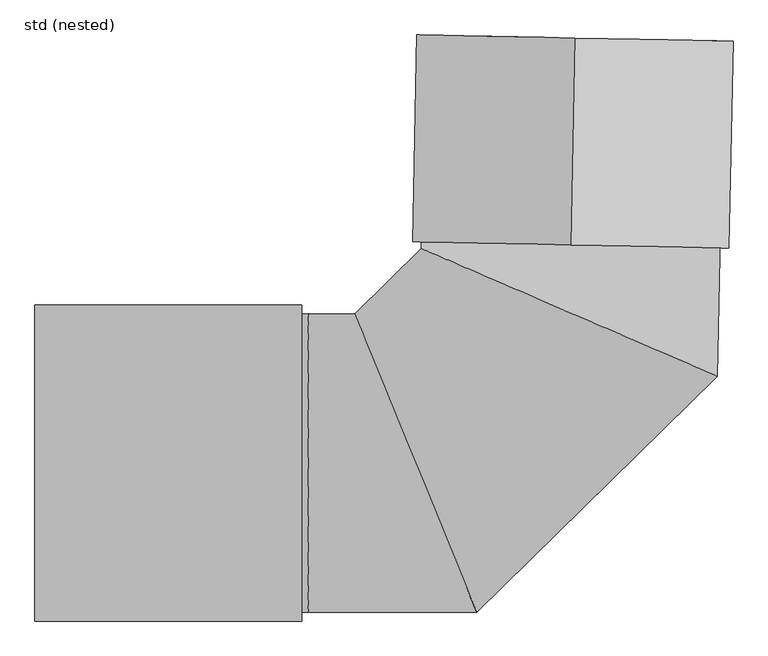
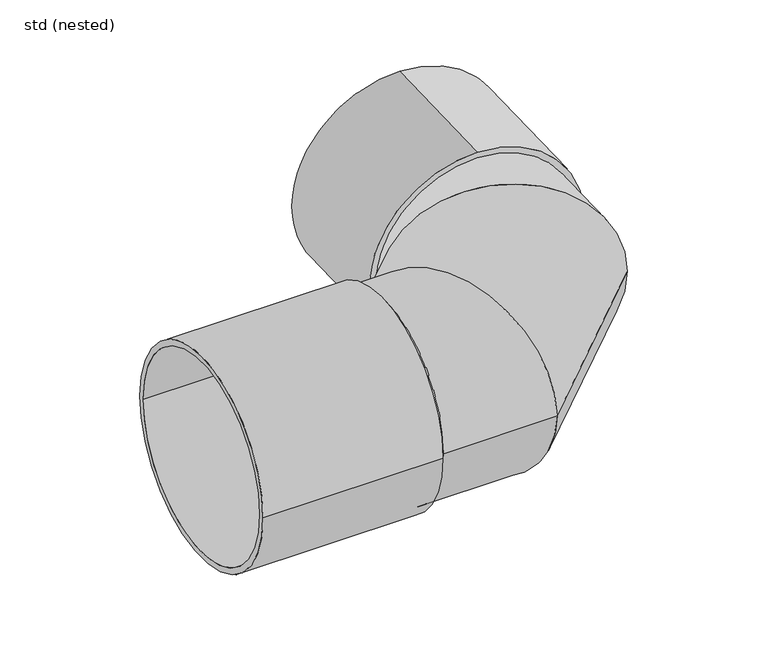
"""IFC4 building model written with IfcOpenShell, lengths in millimetres: pipe fitting geometry, NLRS_52_PIF_WPB_Ultra Kyma bocht 1MV SH_Dyka : std (nested)."""

from ifc_helpers import new_model, si_unit, point, frame, origin, origin_2d, place, context, project, spatial, circle_curve, ellipse_curve, trimmed, segment, composite_curve, outline, extrude, source, transform, mapped, element, save
from ifc_brep_helpers import plane_surface, cylinder_surface, advanced_brep


def std_nested_45f2d5a7(model_context):
    return source(origin(), model_context, "Body", "SolidModel", [
        advanced_brep(
        [(-491.08019, -284.0, 0.0), (-170.5108908, -284.0, 0.0), (-402.4642181, 284.0, 0.0), (-491.08019, 284.0, 0.0), (287.352753, 164.7979345, 0.0), (-275.895542, 408.0626137, 0.0), (11.5776847, 578.8842347, -284.0), (11.5776847, 578.8842347, 284.0), (9.8196401, 490.9820034, -284.0), (-274.123577, 496.6608677, 0.0), (9.8196401, 490.9820034, 284.0), (293.7628571, 485.3031391, 0.0), (-733.0, -284.0, 0.0), (-733.0, 284.0, 0.0)],
        [
            (0, 1),
            (1, 2, ellipse_curve(frame((-286.4875544, 0.0, 0.0), z_axis=(-0.9257811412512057, -0.37805988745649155, 0.0), x_axis=(-0.3780598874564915, 0.9257811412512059, 0.0)), 306.7679685, 284.0)),
            (2, 3),
            (3, 0, circle_curve(frame((-491.08019, 0.0, 0.0), z_axis=(1.0, 0.0, 0.0), x_axis=(0.0, 1.0, 0.0)), 284.0)),
            (0, 3, circle_curve(frame((-491.08019, 0.0, 0.0), z_axis=(1.0, 0.0, 0.0), x_axis=(0.0, 1.0, 0.0)), 284.0)),
            (2, 1, ellipse_curve(frame((-286.4875544, 0.0, 0.0), z_axis=(-0.9257811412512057, -0.37805988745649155, 0.0), x_axis=(-0.3780598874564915, 0.9257811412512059, 0.0)), 306.7679685, 284.0)),
            (1, 4),
            (4, 5, ellipse_curve(frame((5.7286055, 286.4302741, 0.0), z_axis=(-0.39649621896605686, -0.918036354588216, 0.0), x_axis=(-0.9180363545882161, 0.3964962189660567, 0.0)), 306.7679685, 284.0)),
            (5, 2),
            (5, 4, ellipse_curve(frame((5.7286055, 286.4302741, 0.0), z_axis=(-0.39649621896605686, -0.918036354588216, 0.0), x_axis=(-0.9180363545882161, 0.3964962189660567, 0.0)), 306.7679685, 284.0)),
            (6, 7, circle_curve(frame((11.5776847, 578.8842347, 0.0), z_axis=(0.01999600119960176, 0.999800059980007, 0.0), x_axis=(0.0, 0.0, 1.0)), 284.0)),
            (7, 6, circle_curve(frame((11.5776847, 578.8842347, 0.0), z_axis=(0.01999600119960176, 0.999800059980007, 0.0), x_axis=(0.0, 0.0, 1.0)), 284.0)),
            (6, 8),
            (8, 9, circle_curve(frame((9.8196401, 490.9820034, 0.0), z_axis=(0.01999600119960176, 0.999800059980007, 0.0), x_axis=(0.0, 0.0, 1.0)), 284.0)),
            (9, 10, circle_curve(frame((9.8196401, 490.9820034, 0.0), z_axis=(0.01999600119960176, 0.999800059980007, 0.0), x_axis=(0.0, 0.0, 1.0)), 284.0)),
            (10, 7),
            (10, 11, circle_curve(frame((9.8196401, 490.9820034, 0.0), z_axis=(0.01999600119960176, 0.999800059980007, 0.0), x_axis=(0.0, 0.0, 1.0)), 284.0)),
            (11, 8, circle_curve(frame((9.8196401, 490.9820034, 0.0), z_axis=(0.01999600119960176, 0.999800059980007, 0.0), x_axis=(0.0, 0.0, 1.0)), 284.0)),
            (12, 13, circle_curve(frame((-733.0, 0.0, 0.0), z_axis=(-1.0, 0.0, 0.0), x_axis=(0.0, 1.0, 0.0)), 284.0)),
            (13, 12, circle_curve(frame((-733.0, 0.0, 0.0), z_axis=(-1.0, 0.0, 0.0), x_axis=(0.0, 1.0, 0.0)), 284.0)),
            (12, 0),
            (3, 13),
            (4, 11),
            (9, 5),
        ],
        [
            cylinder_surface(frame((-491.08019, 0.0, 0.0), z_axis=(-1.0, 0.0, 0.0), x_axis=(0.0, 1.0, 0.0)), 284.0),
            cylinder_surface(frame((-286.4875544, 0.0, 0.0), z_axis=(-0.7141414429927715, -0.7000014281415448, 0.0), x_axis=(-0.7000014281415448, 0.7141414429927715, 0.0)), 284.0),
            plane_surface(frame((11.5776847, 578.8842347, 284.0), z_axis=(0.019996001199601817, 0.999800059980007, 0.0), x_axis=(0.999800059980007, -0.019996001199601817, 0.0))),
            cylinder_surface(frame((9.8196401, 490.9820034, 0.0), z_axis=(0.01999600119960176, 0.999800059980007, 0.0), x_axis=(0.0, 0.0, 1.0)), 284.0),
            plane_surface(frame((-733.0, 284.0, 0.0), z_axis=(-1.0, 0.0, 0.0), x_axis=(0.0, 0.0, -1.0))),
            cylinder_surface(frame((5.7286055, 286.4302741, 0.0), z_axis=(-0.01999600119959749, -0.9998000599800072, 0.0), x_axis=(-0.9998000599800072, 0.01999600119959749, 0.0)), 284.0),
        ],
        [
            (0, [[1, 2, 3, 4]]),
            (0, [[-1, 5, -3, 6]]),
            (1, [[-2, 7, 8, 9]]),
            (1, [[-6, -9, 10, -7]]),
            (2, [[11, 12]]),
            (3, [[-11, 13, 14, 15, 16]]),
            (3, [[-12, -16, 17, 18, -13]]),
            (4, [[19, 20]]),
            (0, [[-19, 21, -4, 22]]),
            (0, [[-20, -22, -5, -21]]),
            (5, [[-8, 23, -17, -15, 24]]),
            (5, [[-10, -24, -14, -18, -23]]),
        ],
    ),
        extrude(outline(composite_curve([segment(trimmed(circle_curve(origin_2d(), 301.0), [point((-301.0, 0.0))], [point((301.0, 0.0))], False, "CARTESIAN"), True, "CONTINUOUS"), segment(trimmed(circle_curve(origin_2d(), 301.0), [point((301.0, 0.0))], [point((-301.0, 0.0))], False, "CARTESIAN"), True, "CONTINUOUS")], self_intersect=False), holes=[composite_curve([segment(trimmed(circle_curve(origin_2d(), 284.0), [point((284.0, 0.0))], [point((-284.0, 0.0))], True, "CARTESIAN"), True, "CONTINUOUS"), segment(trimmed(circle_curve(origin_2d(), 284.0), [point((-284.0, 0.0))], [point((284.0, 0.0))], True, "CARTESIAN"), True, "CONTINUOUS")], self_intersect=False)]), frame((8.3028311, 415.1415568, 0.0), z_axis=(0.01999600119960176, 0.999800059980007, 0.0), x_axis=(0.0, 0.0, 1.0)), (0.0, 0.0, 1.0), 393.7754232),
        extrude(outline(composite_curve([segment(trimmed(circle_curve(origin_2d(), 301.0), [point((301.0, 0.0))], [point((-301.0, 0.0))], False, "CARTESIAN"), True, "CONTINUOUS"), segment(trimmed(circle_curve(origin_2d(), 301.0), [point((-301.0, 0.0))], [point((301.0, 0.0))], False, "CARTESIAN"), True, "CONTINUOUS")], self_intersect=False), holes=[composite_curve([segment(trimmed(circle_curve(origin_2d(), 284.0), [point((-284.0, 0.0))], [point((284.0, 0.0))], True, "CARTESIAN"), True, "CONTINUOUS"), segment(trimmed(circle_curve(origin_2d(), 284.0), [point((284.0, 0.0))], [point((-284.0, 0.0))], True, "CARTESIAN"), True, "CONTINUOUS")], self_intersect=False)]), frame((-1011.0, 0.0, 0.0), z_axis=(1.0, 0.0, 0.0), x_axis=(0.0, 1.0, 0.0)), (0.0, 0.0, 1.0), 508.0),
    ])


if __name__ == "__main__":
    model = new_model("IFC4")
    model_context = context("Model", 3, world=origin())
    ifc_project = project(units=[si_unit("LENGTHUNIT", "METRE", prefix="MILLI")], contexts=[model_context])
    site = spatial("IfcSite", under=ifc_project)
    building = spatial("IfcBuilding", under=site)
    placement = place(None, origin())
    std_nested_shape = std_nested_45f2d5a7(model_context)
    element("IfcPipeFitting", 1, ObjectType="NLRS_52_PIF_WPB_Ultra Kyma bocht 1MV SH_Dyka : std (nested)", at=placement, inside=building, context=model_context, shape_type="MappedRepresentation", body=[
        mapped(std_nested_shape, transform((0.0, 0.0, 0.0), x_axis=(1.0, 0.0, 0.0), y_axis=(0.0, 1.0, 0.0), z_axis=(0.0, 0.0, 1.0))),
    ])
    save(model, "model.ifc")
